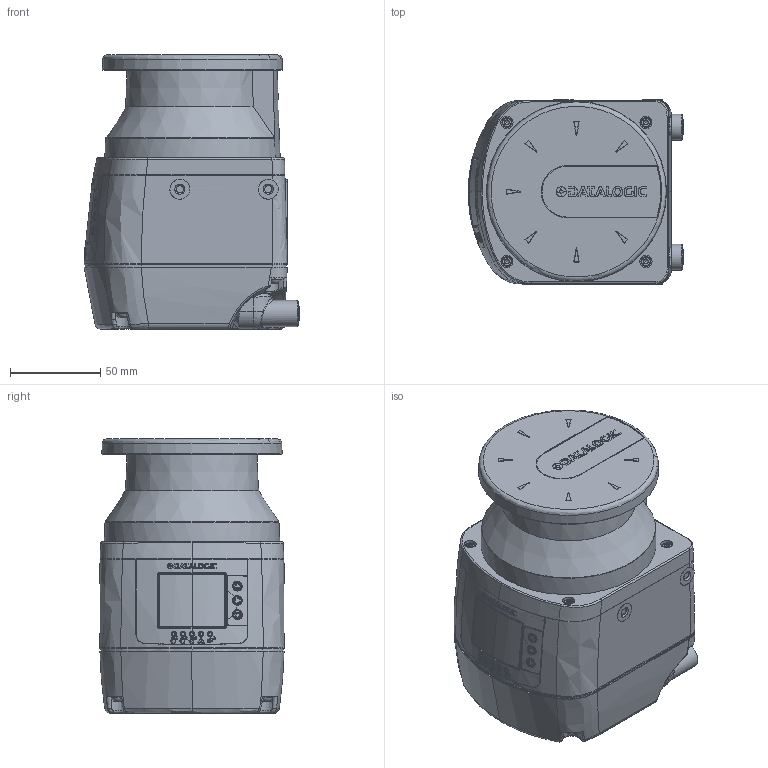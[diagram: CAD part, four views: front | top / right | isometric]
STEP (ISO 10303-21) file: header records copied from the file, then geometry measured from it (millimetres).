
FILE_DESCRIPTION(/* description */ (''),/* implementation_level */ '2;1');
FILE_NAME(/* name */ 'DSD-0943_SLS_R5.stp',/* time_stamp */ '2018-12-20T17:45:40+01:00',/* author */ (''),/* organization */ ('Datalogic S.r.l.'),/* preprocessor_version */ 'ST-DEVELOPER v16',/* originating_system */ 'SIEMENS PLM Software NX 10.0',/* authorisation */ 'Confidential restricted');
FILE_SCHEMA (('AUTOMOTIVE_DESIGN { 1 0 10303 214 3 1 1 1 }'));
Products named in the file (1): adic2224D6830zdj
Bounding box: 119.5 x 102 x 152.15 mm (x, y, z)
Volume: 1311474 mm3; surface area: 92326.6 mm2
Topology: 5 solids, 6 shells, 1268 faces, 3176 edges, 2070 vertices
Faces by surface type: plane 457, bspline 324, cylinder 264, cone 94, torus 60, extrusion 56, sphere 12, revolution 1
Full cylindrical faces by diameter (mm): 1 x16, 1.35 x16, 1.5 x16, 1.9 x2, 2 x5, 3.838 x4, 4 x4, 4.2 x4, 5 x2, 5.3 x2, 5.5 x4, 6.664 x2, 6.8 x2, 11 x4, 11.1 x2, 14.5 x2, 25 x2
Entity records: 56401 total; most frequent: CARTESIAN_POINT 30117, ORIENTED_EDGE 5722, DIRECTION 4425, EDGE_CURVE 2861, VERTEX_POINT 1966, AXIS2_PLACEMENT_3D 1759, EDGE_LOOP 1667, ADVANCED_FACE 1267
